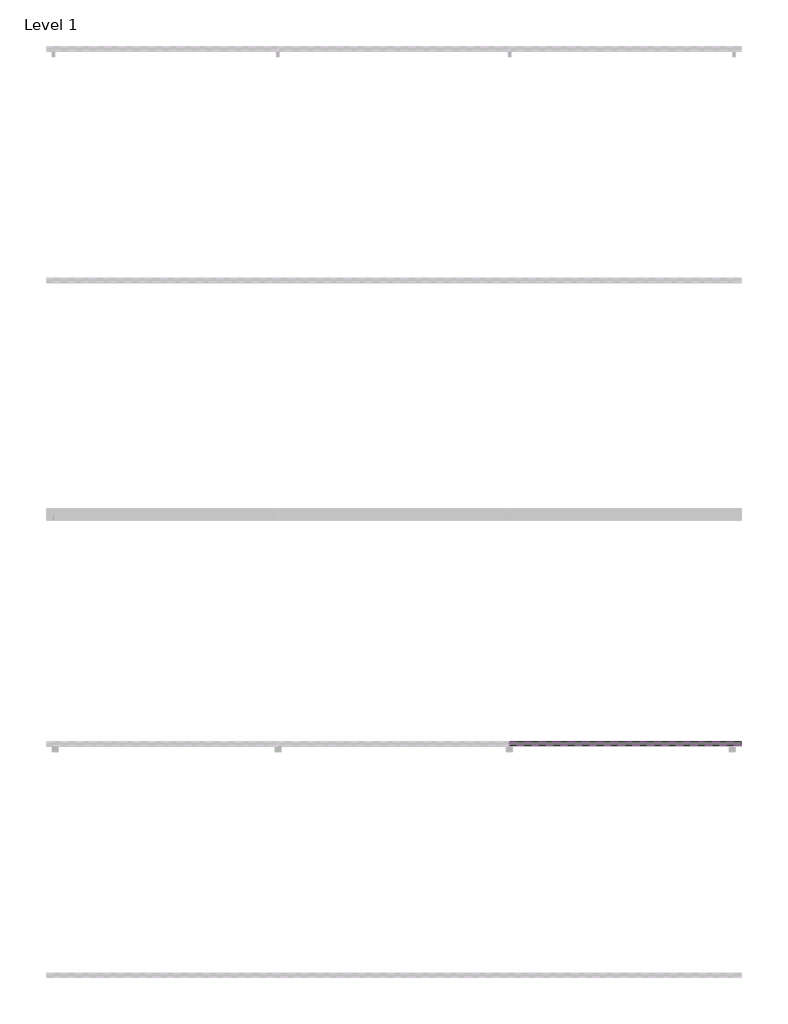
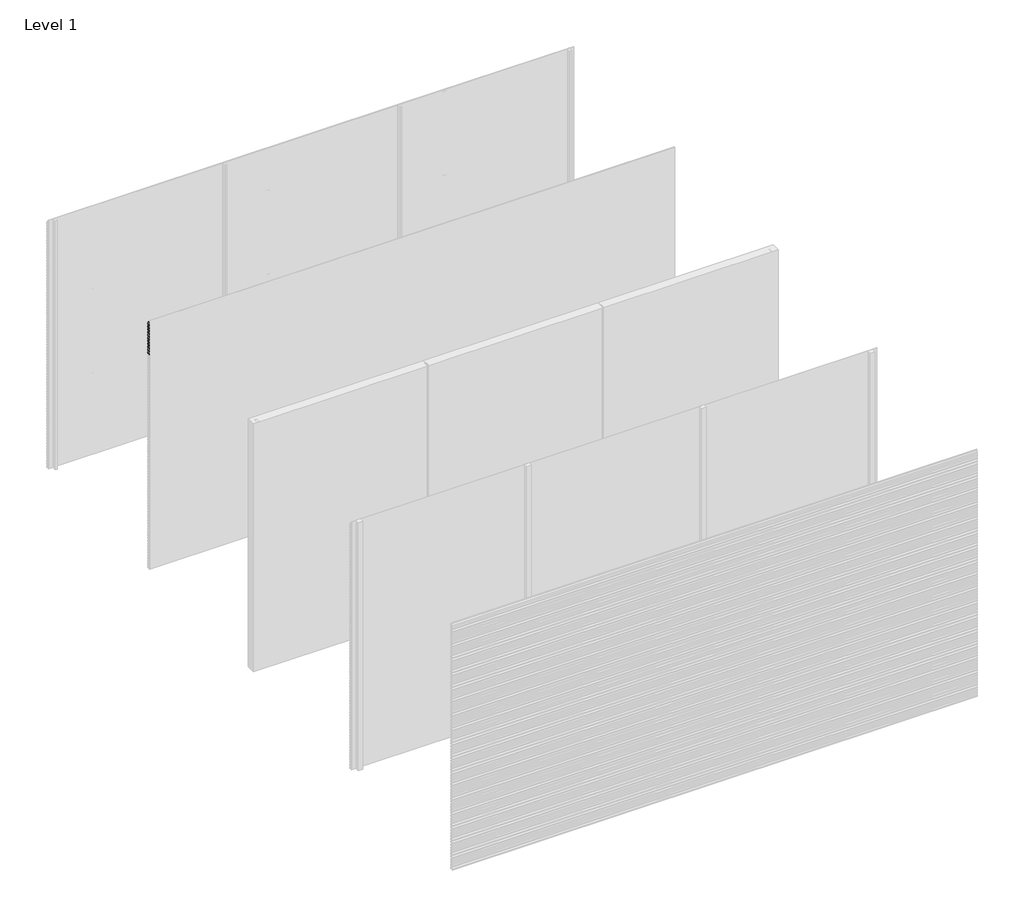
# One storey, part 9 of 17: 81 proxies.
"""IFC4 building model written with IfcOpenShell, lengths in millimetres."""

from ifc_helpers import new_model, si_unit, frame, origin, place, context, project, spatial, polyline, outline, extrude, element, save

model = new_model("IFC4")

# Units and contexts
model_context = context("Model", 3, world=origin())
ifc_project = project(units=[si_unit("LENGTHUNIT", "METRE", prefix="MILLI")], contexts=[model_context])

# Site, building, storey
site = spatial("IfcSite", under=ifc_project)
building = spatial("IfcBuilding", under=site)
storey = spatial("IfcBuildingStorey", under=building, Name="Level 1", Elevation=0.0)

# Proxies
placement = place(None, origin())
element("IfcBuildingElementProxy", 1, Name="Wall Sweeps", at=placement, inside=storey, context=model_context, shape_type="SweptSolid", body=[
    extrude(outline(polyline([(-7961.0, 2951.5), (-7961.0, 2936.5), (-7979.0, 2948.6411533), (-7997.0, 2936.5), (-7997.0, 2951.5), (-7980.0, 2962.9666448), (-7980.0, 2975.0), (-7978.0, 2975.0), (-7978.0, 2962.9666448), (-7961.0, 2951.5)])), frame((0.0, 0.0, 0.0), z_axis=(1.0, 0.0, 0.0), x_axis=(0.0, 1.0, 0.0)), (0.0, 0.0, 1.0), 6000.0),
])
element("IfcBuildingElementProxy", 2, Name="Wall Sweeps", at=placement, inside=storey, context=model_context, shape_type="SweptSolid", body=[
    extrude(outline(polyline([(-7961.0, 2916.5), (-7961.0, 2901.5), (-7979.0, 2913.6411533), (-7997.0, 2901.5), (-7997.0, 2916.5), (-7980.0, 2927.9666448), (-7980.0, 2940.0), (-7978.0, 2940.0), (-7978.0, 2927.9666448), (-7961.0, 2916.5)])), frame((0.0, 0.0, 0.0), z_axis=(1.0, 0.0, 0.0), x_axis=(0.0, 1.0, 0.0)), (0.0, 0.0, 1.0), 6000.0),
])
element("IfcBuildingElementProxy", 3, Name="Wall Sweeps", at=placement, inside=storey, context=model_context, shape_type="SweptSolid", body=[
    extrude(outline(polyline([(-7961.0, 2881.5), (-7961.0, 2866.5), (-7979.0, 2878.6411533), (-7997.0, 2866.5), (-7997.0, 2881.5), (-7980.0, 2892.9666448), (-7980.0, 2905.0), (-7978.0, 2905.0), (-7978.0, 2892.9666448), (-7961.0, 2881.5)])), frame((0.0, 0.0, 0.0), z_axis=(1.0, 0.0, 0.0), x_axis=(0.0, 1.0, 0.0)), (0.0, 0.0, 1.0), 6000.0),
])
element("IfcBuildingElementProxy", 4, Name="Wall Sweeps", at=placement, inside=storey, context=model_context, shape_type="SweptSolid", body=[
    extrude(outline(polyline([(-7961.0, 2846.5), (-7961.0, 2831.5), (-7979.0, 2843.6411533), (-7997.0, 2831.5), (-7997.0, 2846.5), (-7980.0, 2857.9666448), (-7980.0, 2870.0), (-7978.0, 2870.0), (-7978.0, 2857.9666448), (-7961.0, 2846.5)])), frame((0.0, 0.0, 0.0), z_axis=(1.0, 0.0, 0.0), x_axis=(0.0, 1.0, 0.0)), (0.0, 0.0, 1.0), 6000.0),
])
element("IfcBuildingElementProxy", 5, Name="Wall Sweeps", at=placement, inside=storey, context=model_context, shape_type="SweptSolid", body=[
    extrude(outline(polyline([(-7961.0, 2811.5), (-7961.0, 2796.5), (-7979.0, 2808.6411533), (-7997.0, 2796.5), (-7997.0, 2811.5), (-7980.0, 2822.9666448), (-7980.0, 2835.0), (-7978.0, 2835.0), (-7978.0, 2822.9666448), (-7961.0, 2811.5)])), frame((0.0, 0.0, 0.0), z_axis=(1.0, 0.0, 0.0), x_axis=(0.0, 1.0, 0.0)), (0.0, 0.0, 1.0), 6000.0),
])
element("IfcBuildingElementProxy", 6, Name="Wall Sweeps", at=placement, inside=storey, context=model_context, shape_type="SweptSolid", body=[
    extrude(outline(polyline([(-7961.0, 2776.5), (-7961.0, 2761.5), (-7979.0, 2773.6411533), (-7997.0, 2761.5), (-7997.0, 2776.5), (-7980.0, 2787.9666448), (-7980.0, 2800.0), (-7978.0, 2800.0), (-7978.0, 2787.9666448), (-7961.0, 2776.5)])), frame((0.0, 0.0, 0.0), z_axis=(1.0, 0.0, 0.0), x_axis=(0.0, 1.0, 0.0)), (0.0, 0.0, 1.0), 6000.0),
])
element("IfcBuildingElementProxy", 7, Name="Wall Sweeps", at=placement, inside=storey, context=model_context, shape_type="SweptSolid", body=[
    extrude(outline(polyline([(-7961.0, 2741.5), (-7961.0, 2726.5), (-7979.0, 2738.6411533), (-7997.0, 2726.5), (-7997.0, 2741.5), (-7980.0, 2752.9666448), (-7980.0, 2765.0), (-7978.0, 2765.0), (-7978.0, 2752.9666448), (-7961.0, 2741.5)])), frame((0.0, 0.0, 0.0), z_axis=(1.0, 0.0, 0.0), x_axis=(0.0, 1.0, 0.0)), (0.0, 0.0, 1.0), 6000.0),
])
element("IfcBuildingElementProxy", 8, Name="Wall Sweeps", at=placement, inside=storey, context=model_context, shape_type="SweptSolid", body=[
    extrude(outline(polyline([(-7961.0, 2706.5), (-7961.0, 2691.5), (-7979.0, 2703.6411533), (-7997.0, 2691.5), (-7997.0, 2706.5), (-7980.0, 2717.9666448), (-7980.0, 2730.0), (-7978.0, 2730.0), (-7978.0, 2717.9666448), (-7961.0, 2706.5)])), frame((0.0, 0.0, 0.0), z_axis=(1.0, 0.0, 0.0), x_axis=(0.0, 1.0, 0.0)), (0.0, 0.0, 1.0), 6000.0),
])
element("IfcBuildingElementProxy", 9, Name="Wall Sweeps", at=placement, inside=storey, context=model_context, shape_type="SweptSolid", body=[
    extrude(outline(polyline([(-7961.0, 2671.5), (-7961.0, 2656.5), (-7979.0, 2668.6411533), (-7997.0, 2656.5), (-7997.0, 2671.5), (-7980.0, 2682.9666448), (-7980.0, 2695.0), (-7978.0, 2695.0), (-7978.0, 2682.9666448), (-7961.0, 2671.5)])), frame((0.0, 0.0, 0.0), z_axis=(1.0, 0.0, 0.0), x_axis=(0.0, 1.0, 0.0)), (0.0, 0.0, 1.0), 6000.0),
])
element("IfcBuildingElementProxy", 10, Name="Wall Sweeps", at=placement, inside=storey, context=model_context, shape_type="SweptSolid", body=[
    extrude(outline(polyline([(-7961.0, 2636.5), (-7961.0, 2621.5), (-7979.0, 2633.6411533), (-7997.0, 2621.5), (-7997.0, 2636.5), (-7980.0, 2647.9666448), (-7980.0, 2660.0), (-7978.0, 2660.0), (-7978.0, 2647.9666448), (-7961.0, 2636.5)])), frame((0.0, 0.0, 0.0), z_axis=(1.0, 0.0, 0.0), x_axis=(0.0, 1.0, 0.0)), (0.0, 0.0, 1.0), 6000.0),
])
element("IfcBuildingElementProxy", 11, Name="Wall Sweeps", at=placement, inside=storey, context=model_context, shape_type="SweptSolid", body=[
    extrude(outline(polyline([(-7961.0, 2601.5), (-7961.0, 2586.5), (-7979.0, 2598.6411533), (-7997.0, 2586.5), (-7997.0, 2601.5), (-7980.0, 2612.9666448), (-7980.0, 2625.0), (-7978.0, 2625.0), (-7978.0, 2612.9666448), (-7961.0, 2601.5)])), frame((0.0, 0.0, 0.0), z_axis=(1.0, 0.0, 0.0), x_axis=(0.0, 1.0, 0.0)), (0.0, 0.0, 1.0), 6000.0),
])
element("IfcBuildingElementProxy", 12, Name="Wall Sweeps", at=placement, inside=storey, context=model_context, shape_type="SweptSolid", body=[
    extrude(outline(polyline([(-11961.0, 2426.5), (-11961.0, 2411.5), (-11979.0, 2423.6411533), (-11997.0, 2411.5), (-11997.0, 2426.5), (-11980.0, 2437.9666448), (-11980.0, 2450.0), (-11978.0, 2450.0), (-11978.0, 2437.9666448), (-11961.0, 2426.5)])), frame((4000.0, 0.0, 0.0), z_axis=(1.0, 0.0, 0.0), x_axis=(0.0, 1.0, 0.0)), (0.0, 0.0, 1.0), 2000.0),
])
element("IfcBuildingElementProxy", 13, Name="Wall Sweeps", at=placement, inside=storey, context=model_context, shape_type="SweptSolid", body=[
    extrude(outline(polyline([(-11961.0, 2391.5), (-11961.0, 2376.5), (-11979.0, 2388.6411533), (-11997.0, 2376.5), (-11997.0, 2391.5), (-11980.0, 2402.9666448), (-11980.0, 2415.0), (-11978.0, 2415.0), (-11978.0, 2402.9666448), (-11961.0, 2391.5)])), frame((4000.0, 0.0, 0.0), z_axis=(1.0, 0.0, 0.0), x_axis=(0.0, 1.0, 0.0)), (0.0, 0.0, 1.0), 2000.0),
])
element("IfcBuildingElementProxy", 14, Name="Wall Sweeps", at=placement, inside=storey, context=model_context, shape_type="SweptSolid", body=[
    extrude(outline(polyline([(-11961.0, 2356.5), (-11961.0, 2341.5), (-11979.0, 2353.6411533), (-11997.0, 2341.5), (-11997.0, 2356.5), (-11980.0, 2367.9666448), (-11980.0, 2380.0), (-11978.0, 2380.0), (-11978.0, 2367.9666448), (-11961.0, 2356.5)])), frame((4000.0, 0.0, 0.0), z_axis=(1.0, 0.0, 0.0), x_axis=(0.0, 1.0, 0.0)), (0.0, 0.0, 1.0), 2000.0),
])
element("IfcBuildingElementProxy", 15, Name="Wall Sweeps", at=placement, inside=storey, context=model_context, shape_type="SweptSolid", body=[
    extrude(outline(polyline([(-11961.0, 2321.5), (-11961.0, 2306.5), (-11979.0, 2318.6411533), (-11997.0, 2306.5), (-11997.0, 2321.5), (-11980.0, 2332.9666448), (-11980.0, 2345.0), (-11978.0, 2345.0), (-11978.0, 2332.9666448), (-11961.0, 2321.5)])), frame((4000.0, 0.0, 0.0), z_axis=(1.0, 0.0, 0.0), x_axis=(0.0, 1.0, 0.0)), (0.0, 0.0, 1.0), 2000.0),
])
element("IfcBuildingElementProxy", 16, Name="Wall Sweeps", at=placement, inside=storey, context=model_context, shape_type="SweptSolid", body=[
    extrude(outline(polyline([(-11961.0, 2286.5), (-11961.0, 2271.5), (-11979.0, 2283.6411533), (-11997.0, 2271.5), (-11997.0, 2286.5), (-11980.0, 2297.9666448), (-11980.0, 2310.0), (-11978.0, 2310.0), (-11978.0, 2297.9666448), (-11961.0, 2286.5)])), frame((4000.0, 0.0, 0.0), z_axis=(1.0, 0.0, 0.0), x_axis=(0.0, 1.0, 0.0)), (0.0, 0.0, 1.0), 2000.0),
])
element("IfcBuildingElementProxy", 17, Name="Wall Sweeps", at=placement, inside=storey, context=model_context, shape_type="SweptSolid", body=[
    extrude(outline(polyline([(-11961.0, 2251.5), (-11961.0, 2236.5), (-11979.0, 2248.6411533), (-11997.0, 2236.5), (-11997.0, 2251.5), (-11980.0, 2262.9666448), (-11980.0, 2275.0), (-11978.0, 2275.0), (-11978.0, 2262.9666448), (-11961.0, 2251.5)])), frame((4000.0, 0.0, 0.0), z_axis=(1.0, 0.0, 0.0), x_axis=(0.0, 1.0, 0.0)), (0.0, 0.0, 1.0), 2000.0),
])
element("IfcBuildingElementProxy", 18, Name="Wall Sweeps", at=placement, inside=storey, context=model_context, shape_type="SweptSolid", body=[
    extrude(outline(polyline([(-11961.0, 2216.5), (-11961.0, 2201.5), (-11979.0, 2213.6411533), (-11997.0, 2201.5), (-11997.0, 2216.5), (-11980.0, 2227.9666448), (-11980.0, 2240.0), (-11978.0, 2240.0), (-11978.0, 2227.9666448), (-11961.0, 2216.5)])), frame((4000.0, 0.0, 0.0), z_axis=(1.0, 0.0, 0.0), x_axis=(0.0, 1.0, 0.0)), (0.0, 0.0, 1.0), 2000.0),
])
element("IfcBuildingElementProxy", 19, Name="Wall Sweeps", at=placement, inside=storey, context=model_context, shape_type="SweptSolid", body=[
    extrude(outline(polyline([(-11961.0, 2181.5), (-11961.0, 2166.5), (-11979.0, 2178.6411533), (-11997.0, 2166.5), (-11997.0, 2181.5), (-11980.0, 2192.9666448), (-11980.0, 2205.0), (-11978.0, 2205.0), (-11978.0, 2192.9666448), (-11961.0, 2181.5)])), frame((4000.0, 0.0, 0.0), z_axis=(1.0, 0.0, 0.0), x_axis=(0.0, 1.0, 0.0)), (0.0, 0.0, 1.0), 2000.0),
])
element("IfcBuildingElementProxy", 20, Name="Wall Sweeps", at=placement, inside=storey, context=model_context, shape_type="SweptSolid", body=[
    extrude(outline(polyline([(-11961.0, 2146.5), (-11961.0, 2131.5), (-11979.0, 2143.6411533), (-11997.0, 2131.5), (-11997.0, 2146.5), (-11980.0, 2157.9666448), (-11980.0, 2170.0), (-11978.0, 2170.0), (-11978.0, 2157.9666448), (-11961.0, 2146.5)])), frame((4000.0, 0.0, 0.0), z_axis=(1.0, 0.0, 0.0), x_axis=(0.0, 1.0, 0.0)), (0.0, 0.0, 1.0), 2000.0),
])
element("IfcBuildingElementProxy", 21, Name="Wall Sweeps", at=placement, inside=storey, context=model_context, shape_type="SweptSolid", body=[
    extrude(outline(polyline([(-11961.0, 2111.5), (-11961.0, 2096.5), (-11979.0, 2108.6411533), (-11997.0, 2096.5), (-11997.0, 2111.5), (-11980.0, 2122.9666448), (-11980.0, 2135.0), (-11978.0, 2135.0), (-11978.0, 2122.9666448), (-11961.0, 2111.5)])), frame((4000.0, 0.0, 0.0), z_axis=(1.0, 0.0, 0.0), x_axis=(0.0, 1.0, 0.0)), (0.0, 0.0, 1.0), 2000.0),
])
element("IfcBuildingElementProxy", 22, Name="Wall Sweeps", at=placement, inside=storey, context=model_context, shape_type="SweptSolid", body=[
    extrude(outline(polyline([(-11961.0, 2076.5), (-11961.0, 2061.5), (-11979.0, 2073.6411533), (-11997.0, 2061.5), (-11997.0, 2076.5), (-11980.0, 2087.9666448), (-11980.0, 2100.0), (-11978.0, 2100.0), (-11978.0, 2087.9666448), (-11961.0, 2076.5)])), frame((4000.0, 0.0, 0.0), z_axis=(1.0, 0.0, 0.0), x_axis=(0.0, 1.0, 0.0)), (0.0, 0.0, 1.0), 2000.0),
])
element("IfcBuildingElementProxy", 23, Name="Wall Sweeps", at=placement, inside=storey, context=model_context, shape_type="SweptSolid", body=[
    extrude(outline(polyline([(-11961.0, 2041.5), (-11961.0, 2026.5), (-11979.0, 2038.6411533), (-11997.0, 2026.5), (-11997.0, 2041.5), (-11980.0, 2052.9666448), (-11980.0, 2065.0), (-11978.0, 2065.0), (-11978.0, 2052.9666448), (-11961.0, 2041.5)])), frame((4000.0, 0.0, 0.0), z_axis=(1.0, 0.0, 0.0), x_axis=(0.0, 1.0, 0.0)), (0.0, 0.0, 1.0), 2000.0),
])
element("IfcBuildingElementProxy", 24, Name="Wall Sweeps", at=placement, inside=storey, context=model_context, shape_type="SweptSolid", body=[
    extrude(outline(polyline([(-11961.0, 2006.5), (-11961.0, 1991.5), (-11979.0, 2003.6411533), (-11997.0, 1991.5), (-11997.0, 2006.5), (-11980.0, 2017.9666448), (-11980.0, 2030.0), (-11978.0, 2030.0), (-11978.0, 2017.9666448), (-11961.0, 2006.5)])), frame((4000.0, 0.0, 0.0), z_axis=(1.0, 0.0, 0.0), x_axis=(0.0, 1.0, 0.0)), (0.0, 0.0, 1.0), 2000.0),
])
element("IfcBuildingElementProxy", 25, Name="Wall Sweeps", at=placement, inside=storey, context=model_context, shape_type="SweptSolid", body=[
    extrude(outline(polyline([(-11961.0, 1971.5), (-11961.0, 1956.5), (-11979.0, 1968.6411533), (-11997.0, 1956.5), (-11997.0, 1971.5), (-11980.0, 1982.9666448), (-11980.0, 1995.0), (-11978.0, 1995.0), (-11978.0, 1982.9666448), (-11961.0, 1971.5)])), frame((4000.0, 0.0, 0.0), z_axis=(1.0, 0.0, 0.0), x_axis=(0.0, 1.0, 0.0)), (0.0, 0.0, 1.0), 2000.0),
])
element("IfcBuildingElementProxy", 26, Name="Wall Sweeps", at=placement, inside=storey, context=model_context, shape_type="SweptSolid", body=[
    extrude(outline(polyline([(-11961.0, 1936.5), (-11961.0, 1921.5), (-11979.0, 1933.6411533), (-11997.0, 1921.5), (-11997.0, 1936.5), (-11980.0, 1947.9666448), (-11980.0, 1960.0), (-11978.0, 1960.0), (-11978.0, 1947.9666448), (-11961.0, 1936.5)])), frame((4000.0, 0.0, 0.0), z_axis=(1.0, 0.0, 0.0), x_axis=(0.0, 1.0, 0.0)), (0.0, 0.0, 1.0), 2000.0),
])
element("IfcBuildingElementProxy", 27, Name="Wall Sweeps", at=placement, inside=storey, context=model_context, shape_type="SweptSolid", body=[
    extrude(outline(polyline([(-11961.0, 1901.5), (-11961.0, 1886.5), (-11979.0, 1898.6411533), (-11997.0, 1886.5), (-11997.0, 1901.5), (-11980.0, 1912.9666448), (-11980.0, 1925.0), (-11978.0, 1925.0), (-11978.0, 1912.9666448), (-11961.0, 1901.5)])), frame((4000.0, 0.0, 0.0), z_axis=(1.0, 0.0, 0.0), x_axis=(0.0, 1.0, 0.0)), (0.0, 0.0, 1.0), 2000.0),
])
element("IfcBuildingElementProxy", 28, Name="Wall Sweeps", at=placement, inside=storey, context=model_context, shape_type="SweptSolid", body=[
    extrude(outline(polyline([(-11961.0, 1866.5), (-11961.0, 1851.5), (-11979.0, 1863.6411533), (-11997.0, 1851.5), (-11997.0, 1866.5), (-11980.0, 1877.9666448), (-11980.0, 1890.0), (-11978.0, 1890.0), (-11978.0, 1877.9666448), (-11961.0, 1866.5)])), frame((4000.0, 0.0, 0.0), z_axis=(1.0, 0.0, 0.0), x_axis=(0.0, 1.0, 0.0)), (0.0, 0.0, 1.0), 2000.0),
])
element("IfcBuildingElementProxy", 29, Name="Wall Sweeps", at=placement, inside=storey, context=model_context, shape_type="SweptSolid", body=[
    extrude(outline(polyline([(-11961.0, 1831.5), (-11961.0, 1816.5), (-11979.0, 1828.6411533), (-11997.0, 1816.5), (-11997.0, 1831.5), (-11980.0, 1842.9666448), (-11980.0, 1855.0), (-11978.0, 1855.0), (-11978.0, 1842.9666448), (-11961.0, 1831.5)])), frame((4000.0, 0.0, 0.0), z_axis=(1.0, 0.0, 0.0), x_axis=(0.0, 1.0, 0.0)), (0.0, 0.0, 1.0), 2000.0),
])
element("IfcBuildingElementProxy", 30, Name="Wall Sweeps", at=placement, inside=storey, context=model_context, shape_type="SweptSolid", body=[
    extrude(outline(polyline([(-11961.0, 1796.5), (-11961.0, 1781.5), (-11979.0, 1793.6411533), (-11997.0, 1781.5), (-11997.0, 1796.5), (-11980.0, 1807.9666448), (-11980.0, 1820.0), (-11978.0, 1820.0), (-11978.0, 1807.9666448), (-11961.0, 1796.5)])), frame((4000.0, 0.0, 0.0), z_axis=(1.0, 0.0, 0.0), x_axis=(0.0, 1.0, 0.0)), (0.0, 0.0, 1.0), 2000.0),
])
element("IfcBuildingElementProxy", 31, Name="Wall Sweeps", at=placement, inside=storey, context=model_context, shape_type="SweptSolid", body=[
    extrude(outline(polyline([(-11961.0, 1761.5), (-11961.0, 1746.5), (-11979.0, 1758.6411533), (-11997.0, 1746.5), (-11997.0, 1761.5), (-11980.0, 1772.9666448), (-11980.0, 1785.0), (-11978.0, 1785.0), (-11978.0, 1772.9666448), (-11961.0, 1761.5)])), frame((4000.0, 0.0, 0.0), z_axis=(1.0, 0.0, 0.0), x_axis=(0.0, 1.0, 0.0)), (0.0, 0.0, 1.0), 2000.0),
])
element("IfcBuildingElementProxy", 32, Name="Wall Sweeps", at=placement, inside=storey, context=model_context, shape_type="SweptSolid", body=[
    extrude(outline(polyline([(-11961.0, 1726.5), (-11961.0, 1711.5), (-11979.0, 1723.6411533), (-11997.0, 1711.5), (-11997.0, 1726.5), (-11980.0, 1737.9666448), (-11980.0, 1750.0), (-11978.0, 1750.0), (-11978.0, 1737.9666448), (-11961.0, 1726.5)])), frame((4000.0, 0.0, 0.0), z_axis=(1.0, 0.0, 0.0), x_axis=(0.0, 1.0, 0.0)), (0.0, 0.0, 1.0), 2000.0),
])
element("IfcBuildingElementProxy", 33, Name="Wall Sweeps", at=placement, inside=storey, context=model_context, shape_type="SweptSolid", body=[
    extrude(outline(polyline([(-11961.0, 1691.5), (-11961.0, 1676.5), (-11979.0, 1688.6411533), (-11997.0, 1676.5), (-11997.0, 1691.5), (-11980.0, 1702.9666448), (-11980.0, 1715.0), (-11978.0, 1715.0), (-11978.0, 1702.9666448), (-11961.0, 1691.5)])), frame((4000.0, 0.0, 0.0), z_axis=(1.0, 0.0, 0.0), x_axis=(0.0, 1.0, 0.0)), (0.0, 0.0, 1.0), 2000.0),
])
element("IfcBuildingElementProxy", 34, Name="Wall Sweeps", at=placement, inside=storey, context=model_context, shape_type="SweptSolid", body=[
    extrude(outline(polyline([(-11961.0, 1656.5), (-11961.0, 1641.5), (-11979.0, 1653.6411533), (-11997.0, 1641.5), (-11997.0, 1656.5), (-11980.0, 1667.9666448), (-11980.0, 1680.0), (-11978.0, 1680.0), (-11978.0, 1667.9666448), (-11961.0, 1656.5)])), frame((4000.0, 0.0, 0.0), z_axis=(1.0, 0.0, 0.0), x_axis=(0.0, 1.0, 0.0)), (0.0, 0.0, 1.0), 2000.0),
])
element("IfcBuildingElementProxy", 35, Name="Wall Sweeps", at=placement, inside=storey, context=model_context, shape_type="SweptSolid", body=[
    extrude(outline(polyline([(-11961.0, 1621.5), (-11961.0, 1606.5), (-11979.0, 1618.6411533), (-11997.0, 1606.5), (-11997.0, 1621.5), (-11980.0, 1632.9666448), (-11980.0, 1645.0), (-11978.0, 1645.0), (-11978.0, 1632.9666448), (-11961.0, 1621.5)])), frame((4000.0, 0.0, 0.0), z_axis=(1.0, 0.0, 0.0), x_axis=(0.0, 1.0, 0.0)), (0.0, 0.0, 1.0), 2000.0),
])
element("IfcBuildingElementProxy", 36, Name="Wall Sweeps", at=placement, inside=storey, context=model_context, shape_type="SweptSolid", body=[
    extrude(outline(polyline([(-11961.0, 1586.5), (-11961.0, 1571.5), (-11979.0, 1583.6411533), (-11997.0, 1571.5), (-11997.0, 1586.5), (-11980.0, 1597.9666448), (-11980.0, 1610.0), (-11978.0, 1610.0), (-11978.0, 1597.9666448), (-11961.0, 1586.5)])), frame((4000.0, 0.0, 0.0), z_axis=(1.0, 0.0, 0.0), x_axis=(0.0, 1.0, 0.0)), (0.0, 0.0, 1.0), 2000.0),
])
element("IfcBuildingElementProxy", 37, Name="Wall Sweeps", at=placement, inside=storey, context=model_context, shape_type="SweptSolid", body=[
    extrude(outline(polyline([(-11961.0, 1551.5), (-11961.0, 1536.5), (-11979.0, 1548.6411533), (-11997.0, 1536.5), (-11997.0, 1551.5), (-11980.0, 1562.9666448), (-11980.0, 1575.0), (-11978.0, 1575.0), (-11978.0, 1562.9666448), (-11961.0, 1551.5)])), frame((4000.0, 0.0, 0.0), z_axis=(1.0, 0.0, 0.0), x_axis=(0.0, 1.0, 0.0)), (0.0, 0.0, 1.0), 2000.0),
])
element("IfcBuildingElementProxy", 38, Name="Wall Sweeps", at=placement, inside=storey, context=model_context, shape_type="SweptSolid", body=[
    extrude(outline(polyline([(-11961.0, 1516.5), (-11961.0, 1501.5), (-11979.0, 1513.6411533), (-11997.0, 1501.5), (-11997.0, 1516.5), (-11980.0, 1527.9666448), (-11980.0, 1540.0), (-11978.0, 1540.0), (-11978.0, 1527.9666448), (-11961.0, 1516.5)])), frame((4000.0, 0.0, 0.0), z_axis=(1.0, 0.0, 0.0), x_axis=(0.0, 1.0, 0.0)), (0.0, 0.0, 1.0), 2000.0),
])
element("IfcBuildingElementProxy", 39, Name="Wall Sweeps", at=placement, inside=storey, context=model_context, shape_type="SweptSolid", body=[
    extrude(outline(polyline([(-11961.0, 1481.5), (-11961.0, 1466.5), (-11979.0, 1478.6411533), (-11997.0, 1466.5), (-11997.0, 1481.5), (-11980.0, 1492.9666448), (-11980.0, 1505.0), (-11978.0, 1505.0), (-11978.0, 1492.9666448), (-11961.0, 1481.5)])), frame((4000.0, 0.0, 0.0), z_axis=(1.0, 0.0, 0.0), x_axis=(0.0, 1.0, 0.0)), (0.0, 0.0, 1.0), 2000.0),
])
element("IfcBuildingElementProxy", 40, Name="Wall Sweeps", at=placement, inside=storey, context=model_context, shape_type="SweptSolid", body=[
    extrude(outline(polyline([(-11961.0, 1446.5), (-11961.0, 1431.5), (-11979.0, 1443.6411533), (-11997.0, 1431.5), (-11997.0, 1446.5), (-11980.0, 1457.9666448), (-11980.0, 1470.0), (-11978.0, 1470.0), (-11978.0, 1457.9666448), (-11961.0, 1446.5)])), frame((4000.0, 0.0, 0.0), z_axis=(1.0, 0.0, 0.0), x_axis=(0.0, 1.0, 0.0)), (0.0, 0.0, 1.0), 2000.0),
])
element("IfcBuildingElementProxy", 41, Name="Wall Sweeps", at=placement, inside=storey, context=model_context, shape_type="SweptSolid", body=[
    extrude(outline(polyline([(-11961.0, 1411.5), (-11961.0, 1396.5), (-11979.0, 1408.6411533), (-11997.0, 1396.5), (-11997.0, 1411.5), (-11980.0, 1422.9666448), (-11980.0, 1435.0), (-11978.0, 1435.0), (-11978.0, 1422.9666448), (-11961.0, 1411.5)])), frame((4000.0, 0.0, 0.0), z_axis=(1.0, 0.0, 0.0), x_axis=(0.0, 1.0, 0.0)), (0.0, 0.0, 1.0), 2000.0),
])
element("IfcBuildingElementProxy", 42, Name="Wall Sweeps", at=placement, inside=storey, context=model_context, shape_type="SweptSolid", body=[
    extrude(outline(polyline([(-11961.0, 1376.5), (-11961.0, 1361.5), (-11979.0, 1373.6411533), (-11997.0, 1361.5), (-11997.0, 1376.5), (-11980.0, 1387.9666448), (-11980.0, 1400.0), (-11978.0, 1400.0), (-11978.0, 1387.9666448), (-11961.0, 1376.5)])), frame((4000.0, 0.0, 0.0), z_axis=(1.0, 0.0, 0.0), x_axis=(0.0, 1.0, 0.0)), (0.0, 0.0, 1.0), 2000.0),
])
element("IfcBuildingElementProxy", 43, Name="Wall Sweeps", at=placement, inside=storey, context=model_context, shape_type="SweptSolid", body=[
    extrude(outline(polyline([(-11961.0, 1341.5), (-11961.0, 1326.5), (-11979.0, 1338.6411533), (-11997.0, 1326.5), (-11997.0, 1341.5), (-11980.0, 1352.9666448), (-11980.0, 1365.0), (-11978.0, 1365.0), (-11978.0, 1352.9666448), (-11961.0, 1341.5)])), frame((4000.0, 0.0, 0.0), z_axis=(1.0, 0.0, 0.0), x_axis=(0.0, 1.0, 0.0)), (0.0, 0.0, 1.0), 2000.0),
])
element("IfcBuildingElementProxy", 44, Name="Wall Sweeps", at=placement, inside=storey, context=model_context, shape_type="SweptSolid", body=[
    extrude(outline(polyline([(-11961.0, 1306.5), (-11961.0, 1291.5), (-11979.0, 1303.6411533), (-11997.0, 1291.5), (-11997.0, 1306.5), (-11980.0, 1317.9666448), (-11980.0, 1330.0), (-11978.0, 1330.0), (-11978.0, 1317.9666448), (-11961.0, 1306.5)])), frame((4000.0, 0.0, 0.0), z_axis=(1.0, 0.0, 0.0), x_axis=(0.0, 1.0, 0.0)), (0.0, 0.0, 1.0), 2000.0),
])
element("IfcBuildingElementProxy", 45, Name="Wall Sweeps", at=placement, inside=storey, context=model_context, shape_type="SweptSolid", body=[
    extrude(outline(polyline([(-11961.0, 1271.5), (-11961.0, 1256.5), (-11979.0, 1268.6411533), (-11997.0, 1256.5), (-11997.0, 1271.5), (-11980.0, 1282.9666448), (-11980.0, 1295.0), (-11978.0, 1295.0), (-11978.0, 1282.9666448), (-11961.0, 1271.5)])), frame((4000.0, 0.0, 0.0), z_axis=(1.0, 0.0, 0.0), x_axis=(0.0, 1.0, 0.0)), (0.0, 0.0, 1.0), 2000.0),
])
element("IfcBuildingElementProxy", 46, Name="Wall Sweeps", at=placement, inside=storey, context=model_context, shape_type="SweptSolid", body=[
    extrude(outline(polyline([(-11961.0, 1236.5), (-11961.0, 1221.5), (-11979.0, 1233.6411533), (-11997.0, 1221.5), (-11997.0, 1236.5), (-11980.0, 1247.9666448), (-11980.0, 1260.0), (-11978.0, 1260.0), (-11978.0, 1247.9666448), (-11961.0, 1236.5)])), frame((4000.0, 0.0, 0.0), z_axis=(1.0, 0.0, 0.0), x_axis=(0.0, 1.0, 0.0)), (0.0, 0.0, 1.0), 2000.0),
])
element("IfcBuildingElementProxy", 47, Name="Wall Sweeps", at=placement, inside=storey, context=model_context, shape_type="SweptSolid", body=[
    extrude(outline(polyline([(-11961.0, 1201.5), (-11961.0, 1186.5), (-11979.0, 1198.6411533), (-11997.0, 1186.5), (-11997.0, 1201.5), (-11980.0, 1212.9666448), (-11980.0, 1225.0), (-11978.0, 1225.0), (-11978.0, 1212.9666448), (-11961.0, 1201.5)])), frame((4000.0, 0.0, 0.0), z_axis=(1.0, 0.0, 0.0), x_axis=(0.0, 1.0, 0.0)), (0.0, 0.0, 1.0), 2000.0),
])
element("IfcBuildingElementProxy", 48, Name="Wall Sweeps", at=placement, inside=storey, context=model_context, shape_type="SweptSolid", body=[
    extrude(outline(polyline([(-11961.0, 1166.5), (-11961.0, 1151.5), (-11979.0, 1163.6411533), (-11997.0, 1151.5), (-11997.0, 1166.5), (-11980.0, 1177.9666448), (-11980.0, 1190.0), (-11978.0, 1190.0), (-11978.0, 1177.9666448), (-11961.0, 1166.5)])), frame((4000.0, 0.0, 0.0), z_axis=(1.0, 0.0, 0.0), x_axis=(0.0, 1.0, 0.0)), (0.0, 0.0, 1.0), 2000.0),
])
element("IfcBuildingElementProxy", 49, Name="Wall Sweeps", at=placement, inside=storey, context=model_context, shape_type="SweptSolid", body=[
    extrude(outline(polyline([(-11961.0, 1131.5), (-11961.0, 1116.5), (-11979.0, 1128.6411533), (-11997.0, 1116.5), (-11997.0, 1131.5), (-11980.0, 1142.9666448), (-11980.0, 1155.0), (-11978.0, 1155.0), (-11978.0, 1142.9666448), (-11961.0, 1131.5)])), frame((4000.0, 0.0, 0.0), z_axis=(1.0, 0.0, 0.0), x_axis=(0.0, 1.0, 0.0)), (0.0, 0.0, 1.0), 2000.0),
])
element("IfcBuildingElementProxy", 50, Name="Wall Sweeps", at=placement, inside=storey, context=model_context, shape_type="SweptSolid", body=[
    extrude(outline(polyline([(-11961.0, 1096.5), (-11961.0, 1081.5), (-11979.0, 1093.6411533), (-11997.0, 1081.5), (-11997.0, 1096.5), (-11980.0, 1107.9666448), (-11980.0, 1120.0), (-11978.0, 1120.0), (-11978.0, 1107.9666448), (-11961.0, 1096.5)])), frame((4000.0, 0.0, 0.0), z_axis=(1.0, 0.0, 0.0), x_axis=(0.0, 1.0, 0.0)), (0.0, 0.0, 1.0), 2000.0),
])
element("IfcBuildingElementProxy", 51, Name="Wall Sweeps", at=placement, inside=storey, context=model_context, shape_type="SweptSolid", body=[
    extrude(outline(polyline([(-11961.0, 1061.5), (-11961.0, 1046.5), (-11979.0, 1058.6411533), (-11997.0, 1046.5), (-11997.0, 1061.5), (-11980.0, 1072.9666448), (-11980.0, 1085.0), (-11978.0, 1085.0), (-11978.0, 1072.9666448), (-11961.0, 1061.5)])), frame((4000.0, 0.0, 0.0), z_axis=(1.0, 0.0, 0.0), x_axis=(0.0, 1.0, 0.0)), (0.0, 0.0, 1.0), 2000.0),
])
element("IfcBuildingElementProxy", 52, Name="Wall Sweeps", at=placement, inside=storey, context=model_context, shape_type="SweptSolid", body=[
    extrude(outline(polyline([(-11961.0, 1026.5), (-11961.0, 1011.5), (-11979.0, 1023.6411533), (-11997.0, 1011.5), (-11997.0, 1026.5), (-11980.0, 1037.9666448), (-11980.0, 1050.0), (-11978.0, 1050.0), (-11978.0, 1037.9666448), (-11961.0, 1026.5)])), frame((4000.0, 0.0, 0.0), z_axis=(1.0, 0.0, 0.0), x_axis=(0.0, 1.0, 0.0)), (0.0, 0.0, 1.0), 2000.0),
])
element("IfcBuildingElementProxy", 53, Name="Wall Sweeps", at=placement, inside=storey, context=model_context, shape_type="SweptSolid", body=[
    extrude(outline(polyline([(-11961.0, 991.5), (-11961.0, 976.5), (-11979.0, 988.6411533), (-11997.0, 976.5), (-11997.0, 991.5), (-11980.0, 1002.9666448), (-11980.0, 1015.0), (-11978.0, 1015.0), (-11978.0, 1002.9666448), (-11961.0, 991.5)])), frame((4000.0, 0.0, 0.0), z_axis=(1.0, 0.0, 0.0), x_axis=(0.0, 1.0, 0.0)), (0.0, 0.0, 1.0), 2000.0),
])
element("IfcBuildingElementProxy", 54, Name="Wall Sweeps", at=placement, inside=storey, context=model_context, shape_type="SweptSolid", body=[
    extrude(outline(polyline([(-11961.0, 956.5), (-11961.0, 941.5), (-11979.0, 953.6411533), (-11997.0, 941.5), (-11997.0, 956.5), (-11980.0, 967.9666448), (-11980.0, 980.0), (-11978.0, 980.0), (-11978.0, 967.9666448), (-11961.0, 956.5)])), frame((4000.0, 0.0, 0.0), z_axis=(1.0, 0.0, 0.0), x_axis=(0.0, 1.0, 0.0)), (0.0, 0.0, 1.0), 2000.0),
])
element("IfcBuildingElementProxy", 55, Name="Wall Sweeps", at=placement, inside=storey, context=model_context, shape_type="SweptSolid", body=[
    extrude(outline(polyline([(-11961.0, 921.5), (-11961.0, 906.5), (-11979.0, 918.6411533), (-11997.0, 906.5), (-11997.0, 921.5), (-11980.0, 932.9666448), (-11980.0, 945.0), (-11978.0, 945.0), (-11978.0, 932.9666448), (-11961.0, 921.5)])), frame((4000.0, 0.0, 0.0), z_axis=(1.0, 0.0, 0.0), x_axis=(0.0, 1.0, 0.0)), (0.0, 0.0, 1.0), 2000.0),
])
element("IfcBuildingElementProxy", 56, Name="Wall Sweeps", at=placement, inside=storey, context=model_context, shape_type="SweptSolid", body=[
    extrude(outline(polyline([(-11961.0, 886.5), (-11961.0, 871.5), (-11979.0, 883.6411533), (-11997.0, 871.5), (-11997.0, 886.5), (-11980.0, 897.9666448), (-11980.0, 910.0), (-11978.0, 910.0), (-11978.0, 897.9666448), (-11961.0, 886.5)])), frame((4000.0, 0.0, 0.0), z_axis=(1.0, 0.0, 0.0), x_axis=(0.0, 1.0, 0.0)), (0.0, 0.0, 1.0), 2000.0),
])
element("IfcBuildingElementProxy", 57, Name="Wall Sweeps", at=placement, inside=storey, context=model_context, shape_type="SweptSolid", body=[
    extrude(outline(polyline([(-11961.0, 851.5), (-11961.0, 836.5), (-11979.0, 848.6411533), (-11997.0, 836.5), (-11997.0, 851.5), (-11980.0, 862.9666448), (-11980.0, 875.0), (-11978.0, 875.0), (-11978.0, 862.9666448), (-11961.0, 851.5)])), frame((4000.0, 0.0, 0.0), z_axis=(1.0, 0.0, 0.0), x_axis=(0.0, 1.0, 0.0)), (0.0, 0.0, 1.0), 2000.0),
])
element("IfcBuildingElementProxy", 58, Name="Wall Sweeps", at=placement, inside=storey, context=model_context, shape_type="SweptSolid", body=[
    extrude(outline(polyline([(-11961.0, 816.5), (-11961.0, 801.5), (-11979.0, 813.6411533), (-11997.0, 801.5), (-11997.0, 816.5), (-11980.0, 827.9666448), (-11980.0, 840.0), (-11978.0, 840.0), (-11978.0, 827.9666448), (-11961.0, 816.5)])), frame((4000.0, 0.0, 0.0), z_axis=(1.0, 0.0, 0.0), x_axis=(0.0, 1.0, 0.0)), (0.0, 0.0, 1.0), 2000.0),
])
element("IfcBuildingElementProxy", 59, Name="Wall Sweeps", at=placement, inside=storey, context=model_context, shape_type="SweptSolid", body=[
    extrude(outline(polyline([(-11961.0, 781.5), (-11961.0, 766.5), (-11979.0, 778.6411533), (-11997.0, 766.5), (-11997.0, 781.5), (-11980.0, 792.9666448), (-11980.0, 805.0), (-11978.0, 805.0), (-11978.0, 792.9666448), (-11961.0, 781.5)])), frame((4000.0, 0.0, 0.0), z_axis=(1.0, 0.0, 0.0), x_axis=(0.0, 1.0, 0.0)), (0.0, 0.0, 1.0), 2000.0),
])
element("IfcBuildingElementProxy", 60, Name="Wall Sweeps", at=placement, inside=storey, context=model_context, shape_type="SweptSolid", body=[
    extrude(outline(polyline([(-11961.0, 746.5), (-11961.0, 731.5), (-11979.0, 743.6411533), (-11997.0, 731.5), (-11997.0, 746.5), (-11980.0, 757.9666448), (-11980.0, 770.0), (-11978.0, 770.0), (-11978.0, 757.9666448), (-11961.0, 746.5)])), frame((4000.0, 0.0, 0.0), z_axis=(1.0, 0.0, 0.0), x_axis=(0.0, 1.0, 0.0)), (0.0, 0.0, 1.0), 2000.0),
])
element("IfcBuildingElementProxy", 61, Name="Wall Sweeps", at=placement, inside=storey, context=model_context, shape_type="SweptSolid", body=[
    extrude(outline(polyline([(-11961.0, 711.5), (-11961.0, 696.5), (-11979.0, 708.6411533), (-11997.0, 696.5), (-11997.0, 711.5), (-11980.0, 722.9666448), (-11980.0, 735.0), (-11978.0, 735.0), (-11978.0, 722.9666448), (-11961.0, 711.5)])), frame((4000.0, 0.0, 0.0), z_axis=(1.0, 0.0, 0.0), x_axis=(0.0, 1.0, 0.0)), (0.0, 0.0, 1.0), 2000.0),
])
element("IfcBuildingElementProxy", 62, Name="Wall Sweeps", at=placement, inside=storey, context=model_context, shape_type="SweptSolid", body=[
    extrude(outline(polyline([(-11961.0, 676.5), (-11961.0, 661.5), (-11979.0, 673.6411533), (-11997.0, 661.5), (-11997.0, 676.5), (-11980.0, 687.9666448), (-11980.0, 700.0), (-11978.0, 700.0), (-11978.0, 687.9666448), (-11961.0, 676.5)])), frame((4000.0, 0.0, 0.0), z_axis=(1.0, 0.0, 0.0), x_axis=(0.0, 1.0, 0.0)), (0.0, 0.0, 1.0), 2000.0),
])
element("IfcBuildingElementProxy", 63, Name="Wall Sweeps", at=placement, inside=storey, context=model_context, shape_type="SweptSolid", body=[
    extrude(outline(polyline([(-11961.0, 641.5), (-11961.0, 626.5), (-11979.0, 638.6411533), (-11997.0, 626.5), (-11997.0, 641.5), (-11980.0, 652.9666448), (-11980.0, 665.0), (-11978.0, 665.0), (-11978.0, 652.9666448), (-11961.0, 641.5)])), frame((4000.0, 0.0, 0.0), z_axis=(1.0, 0.0, 0.0), x_axis=(0.0, 1.0, 0.0)), (0.0, 0.0, 1.0), 2000.0),
])
element("IfcBuildingElementProxy", 64, Name="Wall Sweeps", at=placement, inside=storey, context=model_context, shape_type="SweptSolid", body=[
    extrude(outline(polyline([(-11961.0, 606.5), (-11961.0, 591.5), (-11979.0, 603.6411533), (-11997.0, 591.5), (-11997.0, 606.5), (-11980.0, 617.9666448), (-11980.0, 630.0), (-11978.0, 630.0), (-11978.0, 617.9666448), (-11961.0, 606.5)])), frame((4000.0, 0.0, 0.0), z_axis=(1.0, 0.0, 0.0), x_axis=(0.0, 1.0, 0.0)), (0.0, 0.0, 1.0), 2000.0),
])
element("IfcBuildingElementProxy", 65, Name="Wall Sweeps", at=placement, inside=storey, context=model_context, shape_type="SweptSolid", body=[
    extrude(outline(polyline([(-11961.0, 571.5), (-11961.0, 556.5), (-11979.0, 568.6411533), (-11997.0, 556.5), (-11997.0, 571.5), (-11980.0, 582.9666448), (-11980.0, 595.0), (-11978.0, 595.0), (-11978.0, 582.9666448), (-11961.0, 571.5)])), frame((4000.0, 0.0, 0.0), z_axis=(1.0, 0.0, 0.0), x_axis=(0.0, 1.0, 0.0)), (0.0, 0.0, 1.0), 2000.0),
])
element("IfcBuildingElementProxy", 66, Name="Wall Sweeps", at=placement, inside=storey, context=model_context, shape_type="SweptSolid", body=[
    extrude(outline(polyline([(-11961.0, 536.5), (-11961.0, 521.5), (-11979.0, 533.6411533), (-11997.0, 521.5), (-11997.0, 536.5), (-11980.0, 547.9666448), (-11980.0, 560.0), (-11978.0, 560.0), (-11978.0, 547.9666448), (-11961.0, 536.5)])), frame((4000.0, 0.0, 0.0), z_axis=(1.0, 0.0, 0.0), x_axis=(0.0, 1.0, 0.0)), (0.0, 0.0, 1.0), 2000.0),
])
element("IfcBuildingElementProxy", 67, Name="Wall Sweeps", at=placement, inside=storey, context=model_context, shape_type="SweptSolid", body=[
    extrude(outline(polyline([(-11961.0, 501.5), (-11961.0, 486.5), (-11979.0, 498.6411533), (-11997.0, 486.5), (-11997.0, 501.5), (-11980.0, 512.9666448), (-11980.0, 525.0), (-11978.0, 525.0), (-11978.0, 512.9666448), (-11961.0, 501.5)])), frame((4000.0, 0.0, 0.0), z_axis=(1.0, 0.0, 0.0), x_axis=(0.0, 1.0, 0.0)), (0.0, 0.0, 1.0), 2000.0),
])
element("IfcBuildingElementProxy", 68, Name="Wall Sweeps", at=placement, inside=storey, context=model_context, shape_type="SweptSolid", body=[
    extrude(outline(polyline([(-11961.0, 466.5), (-11961.0, 451.5), (-11979.0, 463.6411533), (-11997.0, 451.5), (-11997.0, 466.5), (-11980.0, 477.9666448), (-11980.0, 490.0), (-11978.0, 490.0), (-11978.0, 477.9666448), (-11961.0, 466.5)])), frame((4000.0, 0.0, 0.0), z_axis=(1.0, 0.0, 0.0), x_axis=(0.0, 1.0, 0.0)), (0.0, 0.0, 1.0), 2000.0),
])
element("IfcBuildingElementProxy", 69, Name="Wall Sweeps", at=placement, inside=storey, context=model_context, shape_type="SweptSolid", body=[
    extrude(outline(polyline([(-11961.0, 431.5), (-11961.0, 416.5), (-11979.0, 428.6411533), (-11997.0, 416.5), (-11997.0, 431.5), (-11980.0, 442.9666448), (-11980.0, 455.0), (-11978.0, 455.0), (-11978.0, 442.9666448), (-11961.0, 431.5)])), frame((4000.0, 0.0, 0.0), z_axis=(1.0, 0.0, 0.0), x_axis=(0.0, 1.0, 0.0)), (0.0, 0.0, 1.0), 2000.0),
])
element("IfcBuildingElementProxy", 70, Name="Wall Sweeps", at=placement, inside=storey, context=model_context, shape_type="SweptSolid", body=[
    extrude(outline(polyline([(-11961.0, 396.5), (-11961.0, 381.5), (-11979.0, 393.6411533), (-11997.0, 381.5), (-11997.0, 396.5), (-11980.0, 407.9666448), (-11980.0, 420.0), (-11978.0, 420.0), (-11978.0, 407.9666448), (-11961.0, 396.5)])), frame((4000.0, 0.0, 0.0), z_axis=(1.0, 0.0, 0.0), x_axis=(0.0, 1.0, 0.0)), (0.0, 0.0, 1.0), 2000.0),
])
element("IfcBuildingElementProxy", 71, Name="Wall Sweeps", at=placement, inside=storey, context=model_context, shape_type="SweptSolid", body=[
    extrude(outline(polyline([(-11961.0, 361.5), (-11961.0, 346.5), (-11979.0, 358.6411533), (-11997.0, 346.5), (-11997.0, 361.5), (-11980.0, 372.9666448), (-11980.0, 385.0), (-11978.0, 385.0), (-11978.0, 372.9666448), (-11961.0, 361.5)])), frame((4000.0, 0.0, 0.0), z_axis=(1.0, 0.0, 0.0), x_axis=(0.0, 1.0, 0.0)), (0.0, 0.0, 1.0), 2000.0),
])
element("IfcBuildingElementProxy", 72, Name="Wall Sweeps", at=placement, inside=storey, context=model_context, shape_type="SweptSolid", body=[
    extrude(outline(polyline([(-11961.0, 326.5), (-11961.0, 311.5), (-11979.0, 323.6411533), (-11997.0, 311.5), (-11997.0, 326.5), (-11980.0, 337.9666448), (-11980.0, 350.0), (-11978.0, 350.0), (-11978.0, 337.9666448), (-11961.0, 326.5)])), frame((4000.0, 0.0, 0.0), z_axis=(1.0, 0.0, 0.0), x_axis=(0.0, 1.0, 0.0)), (0.0, 0.0, 1.0), 2000.0),
])
element("IfcBuildingElementProxy", 73, Name="Wall Sweeps", at=placement, inside=storey, context=model_context, shape_type="SweptSolid", body=[
    extrude(outline(polyline([(-11961.0, 291.5), (-11961.0, 276.5), (-11979.0, 288.6411533), (-11997.0, 276.5), (-11997.0, 291.5), (-11980.0, 302.9666448), (-11980.0, 315.0), (-11978.0, 315.0), (-11978.0, 302.9666448), (-11961.0, 291.5)])), frame((4000.0, 0.0, 0.0), z_axis=(1.0, 0.0, 0.0), x_axis=(0.0, 1.0, 0.0)), (0.0, 0.0, 1.0), 2000.0),
])
element("IfcBuildingElementProxy", 74, Name="Wall Sweeps", at=placement, inside=storey, context=model_context, shape_type="SweptSolid", body=[
    extrude(outline(polyline([(-11961.0, 256.5), (-11961.0, 241.5), (-11979.0, 253.6411533), (-11997.0, 241.5), (-11997.0, 256.5), (-11980.0, 267.9666448), (-11980.0, 280.0), (-11978.0, 280.0), (-11978.0, 267.9666448), (-11961.0, 256.5)])), frame((4000.0, 0.0, 0.0), z_axis=(1.0, 0.0, 0.0), x_axis=(0.0, 1.0, 0.0)), (0.0, 0.0, 1.0), 2000.0),
])
element("IfcBuildingElementProxy", 75, Name="Wall Sweeps", at=placement, inside=storey, context=model_context, shape_type="SweptSolid", body=[
    extrude(outline(polyline([(-11961.0, 221.5), (-11961.0, 206.5), (-11979.0, 218.6411533), (-11997.0, 206.5), (-11997.0, 221.5), (-11980.0, 232.9666448), (-11980.0, 245.0), (-11978.0, 245.0), (-11978.0, 232.9666448), (-11961.0, 221.5)])), frame((4000.0, 0.0, 0.0), z_axis=(1.0, 0.0, 0.0), x_axis=(0.0, 1.0, 0.0)), (0.0, 0.0, 1.0), 2000.0),
])
element("IfcBuildingElementProxy", 76, Name="Wall Sweeps", at=placement, inside=storey, context=model_context, shape_type="SweptSolid", body=[
    extrude(outline(polyline([(-11961.0, 186.5), (-11961.0, 171.5), (-11979.0, 183.6411533), (-11997.0, 171.5), (-11997.0, 186.5), (-11980.0, 197.9666448), (-11980.0, 210.0), (-11978.0, 210.0), (-11978.0, 197.9666448), (-11961.0, 186.5)])), frame((4000.0, 0.0, 0.0), z_axis=(1.0, 0.0, 0.0), x_axis=(0.0, 1.0, 0.0)), (0.0, 0.0, 1.0), 2000.0),
])
element("IfcBuildingElementProxy", 77, Name="Wall Sweeps", at=placement, inside=storey, context=model_context, shape_type="SweptSolid", body=[
    extrude(outline(polyline([(-11961.0, 151.5), (-11961.0, 136.5), (-11979.0, 148.6411533), (-11997.0, 136.5), (-11997.0, 151.5), (-11980.0, 162.9666448), (-11980.0, 175.0), (-11978.0, 175.0), (-11978.0, 162.9666448), (-11961.0, 151.5)])), frame((4000.0, 0.0, 0.0), z_axis=(1.0, 0.0, 0.0), x_axis=(0.0, 1.0, 0.0)), (0.0, 0.0, 1.0), 2000.0),
])
element("IfcBuildingElementProxy", 78, Name="Wall Sweeps", at=placement, inside=storey, context=model_context, shape_type="SweptSolid", body=[
    extrude(outline(polyline([(-11961.0, 116.5), (-11961.0, 101.5), (-11979.0, 113.6411533), (-11997.0, 101.5), (-11997.0, 116.5), (-11980.0, 127.9666448), (-11980.0, 140.0), (-11978.0, 140.0), (-11978.0, 127.9666448), (-11961.0, 116.5)])), frame((4000.0, 0.0, 0.0), z_axis=(1.0, 0.0, 0.0), x_axis=(0.0, 1.0, 0.0)), (0.0, 0.0, 1.0), 2000.0),
])
element("IfcBuildingElementProxy", 79, Name="Wall Sweeps", at=placement, inside=storey, context=model_context, shape_type="SweptSolid", body=[
    extrude(outline(polyline([(-11961.0, 81.5), (-11961.0, 66.5), (-11979.0, 78.6411533), (-11997.0, 66.5), (-11997.0, 81.5), (-11980.0, 92.9666448), (-11980.0, 105.0), (-11978.0, 105.0), (-11978.0, 92.9666448), (-11961.0, 81.5)])), frame((4000.0, 0.0, 0.0), z_axis=(1.0, 0.0, 0.0), x_axis=(0.0, 1.0, 0.0)), (0.0, 0.0, 1.0), 2000.0),
])
element("IfcBuildingElementProxy", 80, Name="Wall Sweeps", at=placement, inside=storey, context=model_context, shape_type="SweptSolid", body=[
    extrude(outline(polyline([(-11961.0, 46.5), (-11961.0, 31.5), (-11979.0, 43.6411533), (-11997.0, 31.5), (-11997.0, 46.5), (-11980.0, 57.9666448), (-11980.0, 70.0), (-11978.0, 70.0), (-11978.0, 57.9666448), (-11961.0, 46.5)])), frame((4000.0, 0.0, 0.0), z_axis=(1.0, 0.0, 0.0), x_axis=(0.0, 1.0, 0.0)), (0.0, 0.0, 1.0), 2000.0),
])
element("IfcBuildingElementProxy", 81, Name="Wall Sweeps", at=placement, inside=storey, context=model_context, shape_type="SweptSolid", body=[
    extrude(outline(polyline([(-11961.0, 11.5), (-11961.0, -3.5), (-11979.0, 8.6411533), (-11997.0, -3.5), (-11997.0, 11.5), (-11980.0, 22.9666448), (-11980.0, 35.0), (-11978.0, 35.0), (-11978.0, 22.9666448), (-11961.0, 11.5)])), frame((4000.0, 0.0, 0.0), z_axis=(1.0, 0.0, 0.0), x_axis=(0.0, 1.0, 0.0)), (0.0, 0.0, 1.0), 2000.0),
])

save(model, "model.ifc")
